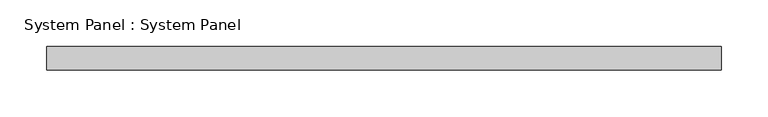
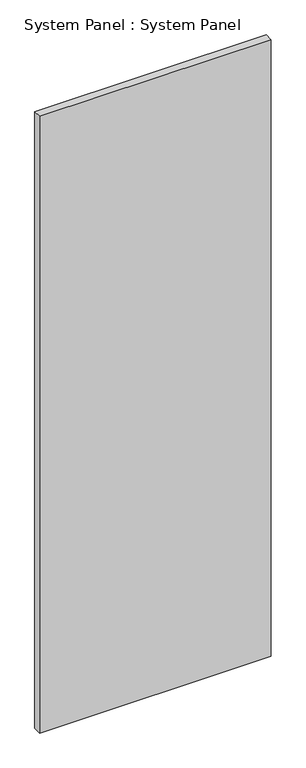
"""IFC4 building model written with IfcOpenShell, lengths in millimetres: plate geometry, System Panel : System Panel."""

from ifc_helpers import new_model, si_unit, origin, origin_with_axes, place, context, project, spatial, polyline, outline, extrude, source, transform, mapped, element, save


def system_panel_system_panel_0f80bde9(model_context):
    return source(origin(), model_context, "Body", "SweptSolid", [
        extrude(outline(polyline([(361.95, 19.05), (-361.95, 19.05), (-361.95, 44.45), (361.95, 44.45), (361.95, 19.05)])), origin_with_axes(), (0.0, 0.0, 1.0), 2038.35),
    ])


if __name__ == "__main__":
    model = new_model("IFC4")
    model_context = context("Model", 3, world=origin())
    ifc_project = project(units=[si_unit("LENGTHUNIT", "METRE", prefix="MILLI")], contexts=[model_context])
    site = spatial("IfcSite", under=ifc_project)
    building = spatial("IfcBuilding", under=site)
    placement = place(None, origin())
    system_panel_system_panel_shape = system_panel_system_panel_0f80bde9(model_context)
    element("IfcPlate", 1, ObjectType="System Panel : System Panel", at=placement, inside=building, context=model_context, shape_type="MappedRepresentation", body=[
        mapped(system_panel_system_panel_shape, transform((0.0, 0.0, 0.0), x_axis=(1.0, 0.0, 0.0), y_axis=(0.0, 1.0, 0.0), z_axis=(0.0, 0.0, 1.0))),
    ])
    save(model, "model.ifc")
